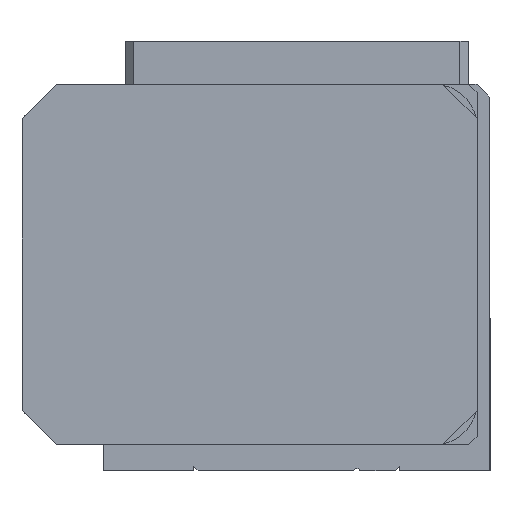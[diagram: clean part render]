
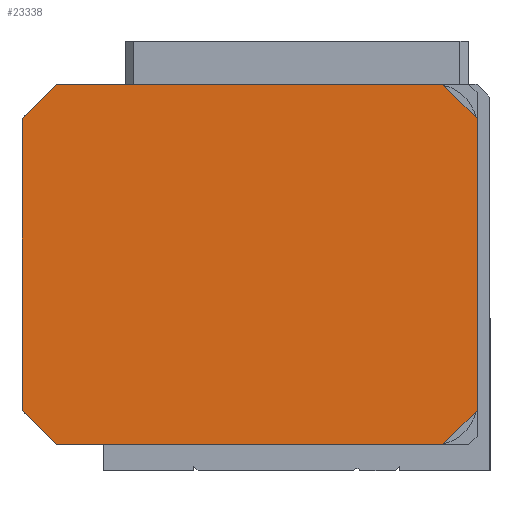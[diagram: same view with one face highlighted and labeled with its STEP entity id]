
A CAD part, left-side view. The second image highlights one B-rep face of the part: STEP entity #23338.
In plain terms, the highlighted planar face has unit normal (-1, 0, 0).
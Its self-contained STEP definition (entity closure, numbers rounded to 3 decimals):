
#22614=CARTESIAN_POINT('',(0.0,-21.,28.));
#22615=VERTEX_POINT('',#22614);
#22622=CARTESIAN_POINT('',(0.0,-21.0,-17.0));
#22623=VERTEX_POINT('',#22622);
#22624=CARTESIAN_POINT('',(0.0,-21.0,-17.0));
#22625=DIRECTION('',(0.0,0.0,1.0));
#22626=VECTOR('',#22625,45.);
#22627=LINE('',#22624,#22626);
#22628=EDGE_CURVE('',#22623,#22615,#22627,.T.);
#23015=CARTESIAN_POINT('',(0.0,21.0,28.));
#23016=VERTEX_POINT('',#23015);
#23023=CARTESIAN_POINT('',(0.0,17.0,32.));
#23024=VERTEX_POINT('',#23023);
#23025=CARTESIAN_POINT('',(0.0,17.0,32.));
#23026=DIRECTION('',(0.0,0.707,-0.707));
#23027=VECTOR('',#23026,5.657);
#23028=LINE('',#23025,#23027);
#23029=EDGE_CURVE('',#23024,#23016,#23028,.T.);
#23056=CARTESIAN_POINT('',(0.0,17.,-21.0));
#23057=VERTEX_POINT('',#23056);
#23064=CARTESIAN_POINT('',(0.0,21.0,-17.0));
#23065=VERTEX_POINT('',#23064);
#23066=CARTESIAN_POINT('',(0.0,21.0,-17.0));
#23067=DIRECTION('',(0.0,-0.707,-0.707));
#23068=VECTOR('',#23067,5.657);
#23069=LINE('',#23066,#23068);
#23070=EDGE_CURVE('',#23065,#23057,#23069,.T.);
#23112=CARTESIAN_POINT('',(0.0,-17.,-21.0));
#23113=VERTEX_POINT('',#23112);
#23114=CARTESIAN_POINT('',(0.0,-17.,-21.0));
#23115=DIRECTION('',(0.0,-0.707,0.707));
#23116=VECTOR('',#23115,5.657);
#23117=LINE('',#23114,#23116);
#23118=EDGE_CURVE('',#23113,#22623,#23117,.T.);
#23145=CARTESIAN_POINT('',(0.0,-17.,32.));
#23146=VERTEX_POINT('',#23145);
#23153=CARTESIAN_POINT('',(0.0,-21.,28.));
#23154=DIRECTION('',(0.0,0.707,0.707));
#23155=VECTOR('',#23154,5.657);
#23156=LINE('',#23153,#23155);
#23157=EDGE_CURVE('',#22615,#23146,#23156,.T.);
#23202=CARTESIAN_POINT('',(0.0,21.0,28.));
#23203=DIRECTION('',(0.0,0.0,-1.0));
#23204=VECTOR('',#23203,45.);
#23205=LINE('',#23202,#23204);
#23206=EDGE_CURVE('',#23016,#23065,#23205,.T.);
#23313=CARTESIAN_POINT('',(0.,0.0,32.));
#23314=DIRECTION('',(-1.0,0.0,0.0));
#23315=DIRECTION('',(0.0,0.0,1.0));
#23316=AXIS2_PLACEMENT_3D('',#23313,#23314,#23315);
#23317=PLANE('',#23316);
#23318=ORIENTED_EDGE('',*,*,#23029,.T.);
#23319=ORIENTED_EDGE('',*,*,#23206,.T.);
#23320=ORIENTED_EDGE('',*,*,#23070,.T.);
#23321=CARTESIAN_POINT('',(0.0,17.,-21.0));
#23322=DIRECTION('',(0.0,-1.0,0.0));
#23323=VECTOR('',#23322,34.);
#23324=LINE('',#23321,#23323);
#23325=EDGE_CURVE('',#23057,#23113,#23324,.T.);
#23326=ORIENTED_EDGE('',*,*,#23325,.T.);
#23327=ORIENTED_EDGE('',*,*,#23118,.T.);
#23328=ORIENTED_EDGE('',*,*,#22628,.T.);
#23329=ORIENTED_EDGE('',*,*,#23157,.T.);
#23330=CARTESIAN_POINT('',(0.0,-17.,32.));
#23331=DIRECTION('',(0.0,1.0,0.0));
#23332=VECTOR('',#23331,34.);
#23333=LINE('',#23330,#23332);
#23334=EDGE_CURVE('',#23146,#23024,#23333,.T.);
#23335=ORIENTED_EDGE('',*,*,#23334,.T.);
#23336=EDGE_LOOP('',(#23318,#23319,#23320,#23326,#23327,#23328,#23329,#23335));
#23337=FACE_OUTER_BOUND('',#23336,.T.);
#23338=ADVANCED_FACE('',(#23337),#23317,.T.);
